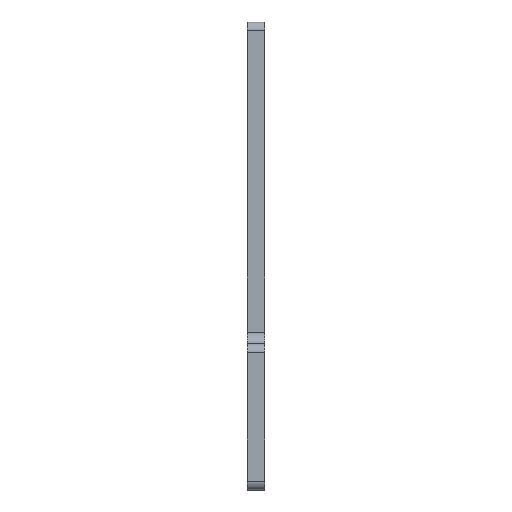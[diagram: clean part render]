
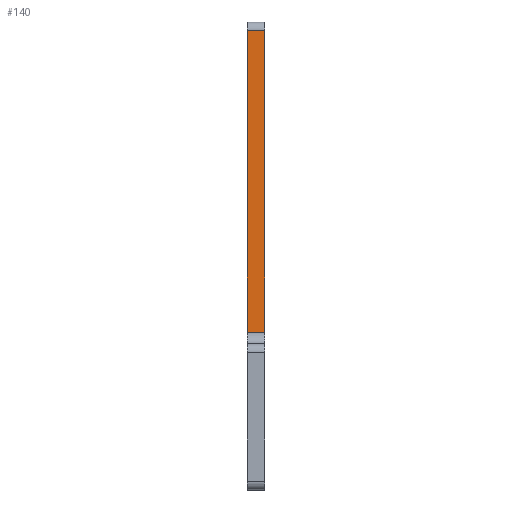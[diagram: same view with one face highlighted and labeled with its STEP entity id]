
A CAD part, left-side view. The second image highlights one B-rep face of the part: STEP entity #140.
In plain terms, the highlighted planar face has unit normal (-1, 0, 0).
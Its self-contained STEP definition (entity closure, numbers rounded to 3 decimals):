
#9 = ORIENTED_EDGE ( 'NONE', *, *, #219, .T. ) ;
#33 = DIRECTION ( 'NONE',  ( 0., 1., 0. ) ) ;
#36 = VERTEX_POINT ( 'NONE', #867 ) ;
#40 = CARTESIAN_POINT ( 'NONE',  ( -12.5, -0.001, 40. ) ) ;
#54 = FACE_OUTER_BOUND ( 'NONE', #237, .T. ) ;
#101 = AXIS2_PLACEMENT_3D ( 'NONE', #40, #102, #508 ) ;
#102 = DIRECTION ( 'NONE',  ( 1., 0., 0. ) ) ;
#104 = VECTOR ( 'NONE', #834, 1000. ) ;
#118 = VERTEX_POINT ( 'NONE', #651 ) ;
#140 = ADVANCED_FACE ( 'NONE', ( #54 ), #241, .F. ) ;
#156 = VECTOR ( 'NONE', #708, 1000. ) ;
#160 = CARTESIAN_POINT ( 'NONE',  ( -12.5, 0., -13. ) ) ;
#166 = VERTEX_POINT ( 'NONE', #580 ) ;
#219 = EDGE_CURVE ( 'NONE', #723, #166, #869, .T. ) ;
#233 = CARTESIAN_POINT ( 'NONE',  ( -12.5, -0.001, 38.5 ) ) ;
#237 = EDGE_LOOP ( 'NONE', ( #246, #701, #248, #9 ) ) ;
#241 = PLANE ( 'NONE',  #101 ) ;
#244 = LINE ( 'NONE', #160, #104 ) ;
#246 = ORIENTED_EDGE ( 'NONE', *, *, #262, .T. ) ;
#248 = ORIENTED_EDGE ( 'NONE', *, *, #606, .F. ) ;
#262 = EDGE_CURVE ( 'NONE', #166, #36, #809, .T. ) ;
#265 = VECTOR ( 'NONE', #633, 1000. ) ;
#307 = EDGE_CURVE ( 'NONE', #36, #118, #244, .T. ) ;
#338 = LINE ( 'NONE', #464, #156 ) ;
#464 = CARTESIAN_POINT ( 'NONE',  ( -12.5, 0., 40. ) ) ;
#466 = VECTOR ( 'NONE', #33, 1000. ) ;
#500 = CARTESIAN_POINT ( 'NONE',  ( -12.5, 3., 40. ) ) ;
#508 = DIRECTION ( 'NONE',  ( 0., 0., -1. ) ) ;
#580 = CARTESIAN_POINT ( 'NONE',  ( -12.5, 3., 38.5 ) ) ;
#606 = EDGE_CURVE ( 'NONE', #723, #118, #338, .T. ) ;
#633 = DIRECTION ( 'NONE',  ( 0., 0., -1. ) ) ;
#651 = CARTESIAN_POINT ( 'NONE',  ( -12.5, 0., -13. ) ) ;
#701 = ORIENTED_EDGE ( 'NONE', *, *, #307, .T. ) ;
#708 = DIRECTION ( 'NONE',  ( 0., 0., -1. ) ) ;
#723 = VERTEX_POINT ( 'NONE', #860 ) ;
#809 = LINE ( 'NONE', #500, #265 ) ;
#834 = DIRECTION ( 'NONE',  ( 0., -1., 0. ) ) ;
#860 = CARTESIAN_POINT ( 'NONE',  ( -12.5, 0., 38.5 ) ) ;
#867 = CARTESIAN_POINT ( 'NONE',  ( -12.5, 3., -13. ) ) ;
#869 = LINE ( 'NONE', #233, #466 ) ;
